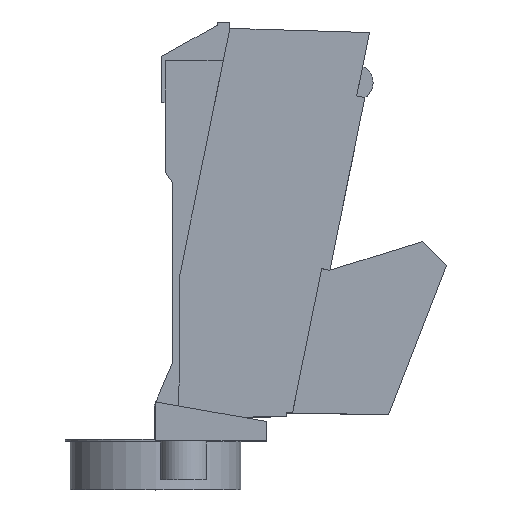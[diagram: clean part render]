
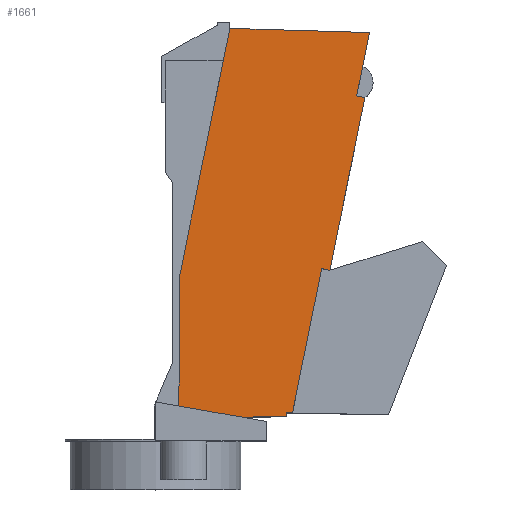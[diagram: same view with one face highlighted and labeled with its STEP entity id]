
A CAD part, top view. The second image highlights one B-rep face of the part: STEP entity #1661.
In plain terms, the highlighted planar face has unit normal (0, 0, 1).
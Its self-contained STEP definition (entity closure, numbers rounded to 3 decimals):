
#33 = VERTEX_POINT ( 'NONE', #285 ) ;
#34 = EDGE_CURVE ( 'NONE', #1069, #1753, #447, .T. ) ;
#51 = DIRECTION ( 'NONE',  ( 0.199, 0.98, 0. ) ) ;
#82 = LINE ( 'NONE', #219, #1652 ) ;
#94 = LINE ( 'NONE', #1637, #995 ) ;
#117 = CARTESIAN_POINT ( 'NONE',  ( 45.494, 32.051, 12.1 ) ) ;
#188 = CARTESIAN_POINT ( 'NONE',  ( 43.828, 32.389, 12.1 ) ) ;
#209 = CARTESIAN_POINT ( 'NONE',  ( 7.52, -4.22, 12.1 ) ) ;
#216 = EDGE_CURVE ( 'NONE', #614, #1300, #82, .T. ) ;
#219 = CARTESIAN_POINT ( 'NONE',  ( 45.06, 38.462, 12.1 ) ) ;
#220 = CARTESIAN_POINT ( 'NONE',  ( 17.765, 46.272, 12.1 ) ) ;
#244 = EDGE_CURVE ( 'NONE', #1558, #1537, #94, .T. ) ;
#285 = CARTESIAN_POINT ( 'NONE',  ( 7.279, -31.331, 12.1 ) ) ;
#289 = CARTESIAN_POINT ( 'NONE',  ( 29.38, -32.715, 12.1 ) ) ;
#308 = LINE ( 'NONE', #937, #1382 ) ;
#431 = VECTOR ( 'NONE', #1224, 1000. ) ;
#447 = LINE ( 'NONE', #1330, #1411 ) ;
#450 = EDGE_CURVE ( 'NONE', #1753, #614, #1860, .T. ) ;
#471 = VECTOR ( 'NONE', #490, 1000. ) ;
#490 = DIRECTION ( 'NONE',  ( 0.985, -0.174, 0. ) ) ;
#502 = CARTESIAN_POINT ( 'NONE',  ( 20.871, -33.728, 12.1 ) ) ;
#503 = VECTOR ( 'NONE', #1474, 1000. ) ;
#535 = AXIS2_PLACEMENT_3D ( 'NONE', #1515, #2022, #1204 ) ;
#551 = CARTESIAN_POINT ( 'NONE',  ( 20.368, -36.58, 12.1 ) ) ;
#559 = ORIENTED_EDGE ( 'NONE', *, *, #216, .T. ) ;
#568 = LINE ( 'NONE', #1721, #930 ) ;
#574 = VECTOR ( 'NONE', #1639, 1000. ) ;
#583 = PLANE ( 'NONE',  #706 ) ;
#614 = VERTEX_POINT ( 'NONE', #784 ) ;
#648 = LINE ( 'NONE', #1924, #1848 ) ;
#656 = CARTESIAN_POINT ( 'NONE',  ( 17.765, 46.272, 12.1 ) ) ;
#690 = LINE ( 'NONE', #1295, #1322 ) ;
#706 = AXIS2_PLACEMENT_3D ( 'NONE', #551, #1659, #724 ) ;
#712 = ORIENTED_EDGE ( 'NONE', *, *, #731, .F. ) ;
#715 = CARTESIAN_POINT ( 'NONE',  ( 29.38, -32.715, 12.1 ) ) ;
#724 = DIRECTION ( 'NONE',  ( 1., 0., 0. ) ) ;
#731 = EDGE_CURVE ( 'NONE', #1611, #1703, #1475, .T. ) ;
#771 = ORIENTED_EDGE ( 'NONE', *, *, #34, .T. ) ;
#784 = CARTESIAN_POINT ( 'NONE',  ( 30.613, -32.737, 12.1 ) ) ;
#820 = ORIENTED_EDGE ( 'NONE', *, *, #1543, .T. ) ;
#823 = LINE ( 'NONE', #502, #471 ) ;
#863 = VERTEX_POINT ( 'NONE', #2002 ) ;
#906 = EDGE_CURVE ( 'NONE', #1818, #1800, #1421, .T. ) ;
#930 = VECTOR ( 'NONE', #1666, 1000. ) ;
#937 = CARTESIAN_POINT ( 'NONE',  ( 45.06, 38.462, 12.1 ) ) ;
#947 = LINE ( 'NONE', #656, #1085 ) ;
#981 = EDGE_CURVE ( 'NONE', #1344, #1558, #947, .T. ) ;
#995 = VECTOR ( 'NONE', #1338, 1000. ) ;
#1064 = CARTESIAN_POINT ( 'NONE',  ( 20.1, -33.592, 12.1 ) ) ;
#1069 = VERTEX_POINT ( 'NONE', #1909 ) ;
#1085 = VECTOR ( 'NONE', #1743, 1000. ) ;
#1098 = EDGE_CURVE ( 'NONE', #1611, #1344, #308, .T. ) ;
#1160 = CARTESIAN_POINT ( 'NONE',  ( 8.032, 39.652, 12.1 ) ) ;
#1165 = ORIENTED_EDGE ( 'NONE', *, *, #244, .T. ) ;
#1204 = DIRECTION ( 'NONE',  ( 1., 0., 0. ) ) ;
#1224 = DIRECTION ( 'NONE',  ( 1., -0.017, 0. ) ) ;
#1238 = CARTESIAN_POINT ( 'NONE',  ( 20.335, -33.58, 12.1 ) ) ;
#1263 = EDGE_CURVE ( 'NONE', #1537, #33, #568, .T. ) ;
#1295 = CARTESIAN_POINT ( 'NONE',  ( 0.838, 4.193, 12.1 ) ) ;
#1300 = VERTEX_POINT ( 'NONE', #1365 ) ;
#1322 = VECTOR ( 'NONE', #1627, 1000. ) ;
#1330 = CARTESIAN_POINT ( 'NONE',  ( 29.38, -33.48, 12.1 ) ) ;
#1338 = DIRECTION ( 'NONE',  ( -0.199, -0.98, 0. ) ) ;
#1344 = VERTEX_POINT ( 'NONE', #1762 ) ;
#1365 = CARTESIAN_POINT ( 'NONE',  ( 36.633, -3.07, 12.1 ) ) ;
#1382 = VECTOR ( 'NONE', #1405, 1000. ) ;
#1391 = ORIENTED_EDGE ( 'NONE', *, *, #450, .T. ) ;
#1405 = DIRECTION ( 'NONE',  ( 0.199, 0.98, 0. ) ) ;
#1411 = VECTOR ( 'NONE', #1949, 1000. ) ;
#1421 = CIRCLE ( 'NONE', #535, 3. ) ;
#1435 = ORIENTED_EDGE ( 'NONE', *, *, #1098, .T. ) ;
#1449 = DIRECTION ( 'NONE',  ( -0.199, -0.98, 0. ) ) ;
#1464 = CARTESIAN_POINT ( 'NONE',  ( 20.335, -33.58, 12.1 ) ) ;
#1466 = ORIENTED_EDGE ( 'NONE', *, *, #1565, .T. ) ;
#1474 = DIRECTION ( 'NONE',  ( 1., 0.011, 0. ) ) ;
#1475 = LINE ( 'NONE', #1160, #574 ) ;
#1494 = ORIENTED_EDGE ( 'NONE', *, *, #1567, .F. ) ;
#1497 = FACE_OUTER_BOUND ( 'NONE', #1864, .T. ) ;
#1515 = CARTESIAN_POINT ( 'NONE',  ( 20.368, -36.58, 12.1 ) ) ;
#1537 = VERTEX_POINT ( 'NONE', #209 ) ;
#1543 = EDGE_CURVE ( 'NONE', #1300, #863, #690, .T. ) ;
#1558 = VERTEX_POINT ( 'NONE', #220 ) ;
#1565 = EDGE_CURVE ( 'NONE', #1800, #1069, #1767, .T. ) ;
#1567 = EDGE_CURVE ( 'NONE', #1703, #863, #648, .T. ) ;
#1611 = VERTEX_POINT ( 'NONE', #188 ) ;
#1627 = DIRECTION ( 'NONE',  ( 0.98, -0.199, 0. ) ) ;
#1637 = CARTESIAN_POINT ( 'NONE',  ( 17.765, 46.272, 12.1 ) ) ;
#1639 = DIRECTION ( 'NONE',  ( 0.98, -0.199, 0. ) ) ;
#1652 = VECTOR ( 'NONE', #51, 1000. ) ;
#1659 = DIRECTION ( 'NONE',  ( 0., 0., 1. ) ) ;
#1661 = ADVANCED_FACE ( 'NONE', ( #1497 ), #583, .T. ) ;
#1666 = DIRECTION ( 'NONE',  ( -0.009, -1., 0. ) ) ;
#1703 = VERTEX_POINT ( 'NONE', #117 ) ;
#1721 = CARTESIAN_POINT ( 'NONE',  ( 7.215, -38.5, 12.1 ) ) ;
#1743 = DIRECTION ( 'NONE',  ( -1., 0.03, 0. ) ) ;
#1753 = VERTEX_POINT ( 'NONE', #715 ) ;
#1762 = CARTESIAN_POINT ( 'NONE',  ( 46.47, 45.41, 12.1 ) ) ;
#1767 = LINE ( 'NONE', #1464, #503 ) ;
#1800 = VERTEX_POINT ( 'NONE', #1238 ) ;
#1818 = VERTEX_POINT ( 'NONE', #1064 ) ;
#1821 = ORIENTED_EDGE ( 'NONE', *, *, #2003, .T. ) ;
#1848 = VECTOR ( 'NONE', #1449, 1000. ) ;
#1854 = ORIENTED_EDGE ( 'NONE', *, *, #906, .T. ) ;
#1860 = LINE ( 'NONE', #289, #431 ) ;
#1864 = EDGE_LOOP ( 'NONE', ( #1883, #1821, #1854, #1466, #771, #1391, #559, #820, #1494, #712, #1435, #1975, #1165 ) ) ;
#1883 = ORIENTED_EDGE ( 'NONE', *, *, #1263, .T. ) ;
#1909 = CARTESIAN_POINT ( 'NONE',  ( 29.38, -33.48, 12.1 ) ) ;
#1924 = CARTESIAN_POINT ( 'NONE',  ( 38.299, -3.408, 12.1 ) ) ;
#1949 = DIRECTION ( 'NONE',  ( 0., 1., 0. ) ) ;
#1975 = ORIENTED_EDGE ( 'NONE', *, *, #981, .T. ) ;
#2002 = CARTESIAN_POINT ( 'NONE',  ( 38.299, -3.408, 12.1 ) ) ;
#2003 = EDGE_CURVE ( 'NONE', #33, #1818, #823, .T. ) ;
#2022 = DIRECTION ( 'NONE',  ( 0., 0., -1. ) ) ;
